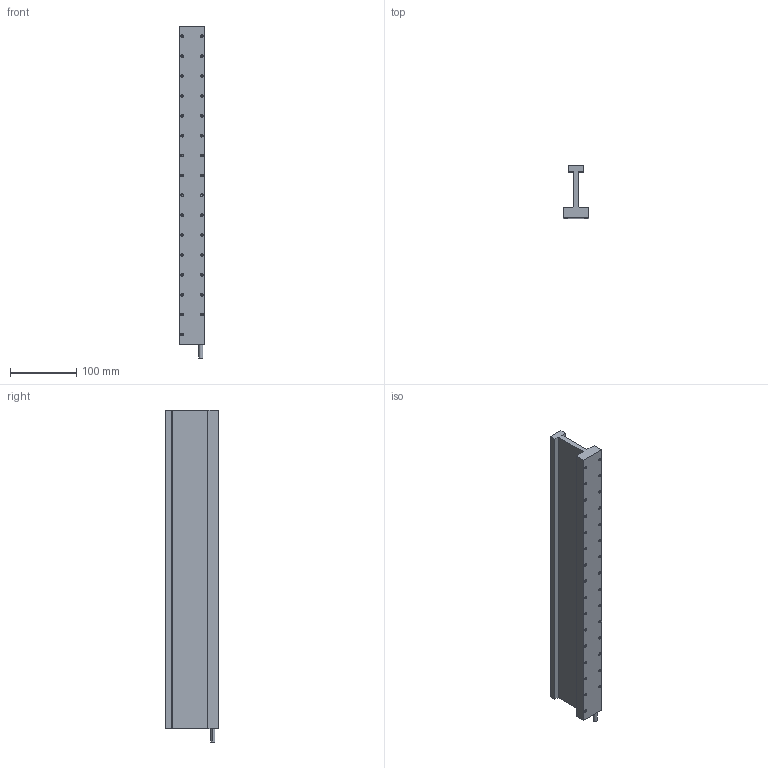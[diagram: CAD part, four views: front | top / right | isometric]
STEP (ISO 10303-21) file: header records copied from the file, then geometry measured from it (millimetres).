
FILE_DESCRIPTION (( 'STEP AP214' ), '1' );
FILE_NAME ('JKB47.STEP', '2025-09-05T12:50:13', ( '' ), ( '' ), 'SwSTEP 2.0', 'SolidWorks 2016', '' );
FILE_SCHEMA (( 'AUTOMOTIVE_DESIGN' ));
Length unit declared in the file: millimetre
Products named in the file (1): JKB47
Bounding box: 38.5 x 79.3 x 501 mm (x, y, z)
Volume: 596717.1 mm3; surface area: 133355.7 mm2
Topology: 1 solids, 1 shells, 203 faces, 476 edges, 245 vertices
Faces by surface type: cone 124, cylinder 64, plane 15
Entity records: 5990 total; most frequent: DIRECTION 1012, CARTESIAN_POINT 863, ORIENTED_EDGE 828, EDGE_CURVE 414, AXIS2_PLACEMENT_3D 394, VERTEX_POINT 245, EDGE_LOOP 235, LINE 224
